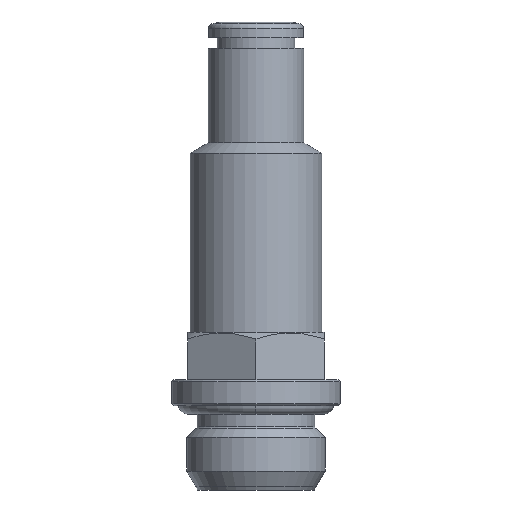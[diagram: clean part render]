
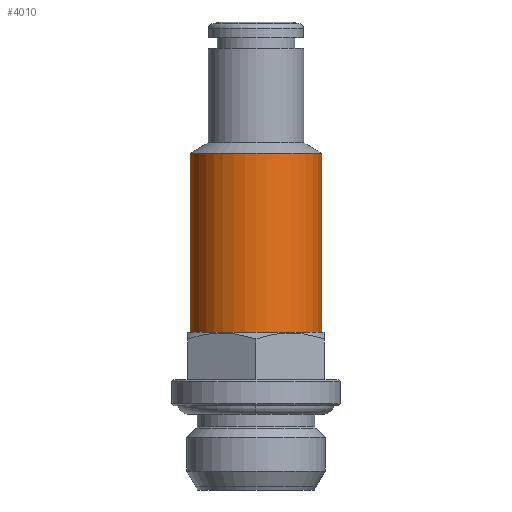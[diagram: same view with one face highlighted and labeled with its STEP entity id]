
A CAD part, left-side view. The second image highlights one B-rep face of the part: STEP entity #4010.
In plain terms, the highlighted cylindrical face has radius 6.25 mm (diameter 12.5 mm), a full revolution.
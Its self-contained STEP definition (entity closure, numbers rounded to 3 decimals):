
#4010=ADVANCED_FACE('', (#4020,#4030,#4040), #4050, .T.);
#10450=AXIS2_PLACEMENT_3D('Ax2Pl3d', #10460, #10470, #10480);
#12410=AXIS2_PLACEMENT_3D('Ax2Pl3d', #12420, #12430, #12440);
#12450=AXIS2_PLACEMENT_3D('Ax2Pl3d', #12460, #12470, #12480);
#12490=AXIS2_PLACEMENT_3D('Ax2Pl3d', #12500, #12510, #12520);
#12530=AXIS2_PLACEMENT_3D('Ax2Pl3d', #12540, #12550, #12560);
#10460=CARTESIAN_POINT('HicPkt', (10.661,14.3,
14.525));
#20590=CARTESIAN_POINT('', (16.911,14.3,14.525));
#12420=CARTESIAN_POINT('HicPkt', (10.661,14.3,
23.525));
#20840=CARTESIAN_POINT('', (10.661,8.05,23.525));
#20850=CARTESIAN_POINT('', (10.661,20.55,23.525));
#12460=CARTESIAN_POINT('HicPkt', (10.661,14.3,
23.525));
#12500=CARTESIAN_POINT('HicPkt', (10.661,14.3,
31.544));
#12540=CARTESIAN_POINT('HicPkt', (10.661,14.3,
31.544));
#20860=CARTESIAN_POINT('', (16.911,14.3,31.544));
#21580=CIRCLE('Circle', #10450, 6.25);
#21830=CIRCLE('Circle', #12530, 6.25);
#4050=CYLINDRICAL_SURFACE('Zyl', #12490, 6.25);
#10470=DIRECTION('Axis', (0.,0.,1.));
#10480=DIRECTION('RefDirection', (1.,0.,-0.));
#12430=DIRECTION('Axis', (0.707,0.,0.707));
#12440=DIRECTION('RefDirection', (0.707,0.,-0.707));
#12470=DIRECTION('Axis', (0.707,0.,-0.707));
#12480=DIRECTION('RefDirection', (0.707,0.,0.707));
#12510=DIRECTION('Axis', (0.,0.,-1.));
#12520=DIRECTION('RefDirection', (-1.,-0.,0.));
#12550=DIRECTION('Axis', (0.,0.,1.));
#12560=DIRECTION('RefDirection', (1.,0.,-0.));
#27370=EDGE_CURVE('', #27380, #27380, #21580, .T.);
#27870=EDGE_CURVE('', #27880, #27890, #27900, .T.);
#27910=EDGE_CURVE('', #27890, #27880, #27920, .T.);
#27930=EDGE_CURVE('', #27940, #27940, #21830, .T.);
#32060=EDGE_LOOP('Edge_loop', (#32070));
#32080=EDGE_LOOP('Edge_loop', (#32090));
#32100=EDGE_LOOP('Edge_loop', (#32110,#32120));
#27900=ELLIPSE('Ellipse', #12410, 8.839, 6.25);
#27920=ELLIPSE('Ellipse', #12450, 8.839, 6.25);
#4030=FACE_BOUND('', #32080, .T.);
#4040=FACE_BOUND('', #32100, .T.);
#4020=FACE_OUTER_BOUND('Face_outer_bound', #32060, .T.);
#32070=ORIENTED_EDGE('', *, *, #27930, .F.);
#32090=ORIENTED_EDGE('', *, *, #27370, .T.);
#32110=ORIENTED_EDGE('', *, *, #27870, .F.);
#32120=ORIENTED_EDGE('', *, *, #27910, .F.);
#27380=VERTEX_POINT('', #20590);
#27880=VERTEX_POINT('', #20840);
#27890=VERTEX_POINT('', #20850);
#27940=VERTEX_POINT('', #20860);
